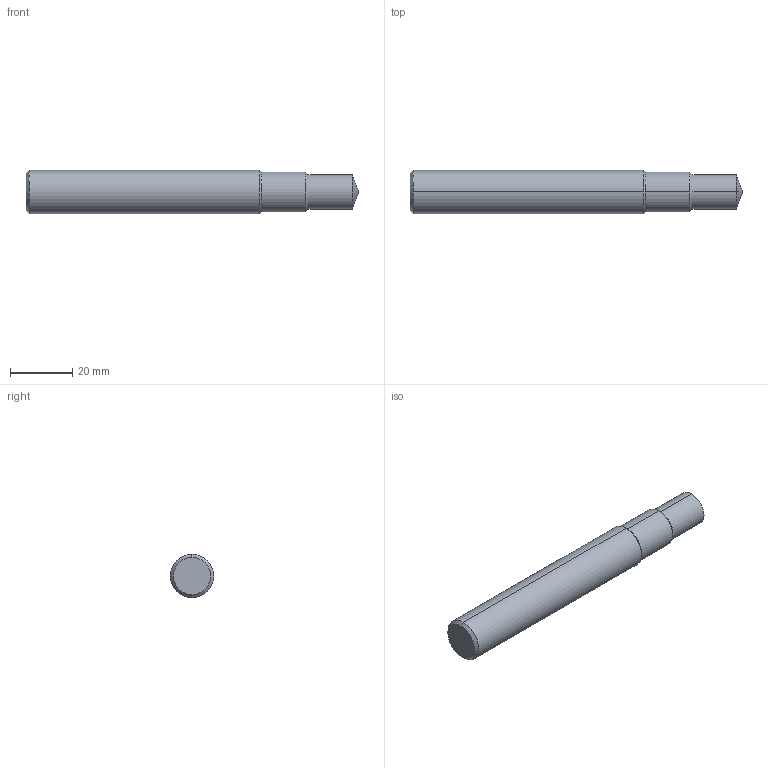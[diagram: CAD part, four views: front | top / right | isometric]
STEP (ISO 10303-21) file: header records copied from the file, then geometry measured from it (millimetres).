
FILE_DESCRIPTION (( 'STEP AP203' ), '1' );
FILE_NAME ('407042-RD-AS5202-05A.STEP', '2024-10-02T15:08:23', ( '' ), ( '' ), 'SwSTEP 2.0', 'SolidWorks 2024', '' );
FILE_SCHEMA (( 'CONFIG_CONTROL_DESIGN' ));
Length unit declared in the file: inch
Products named in the file (1): 407042-RD-AS5202-05A
Bounding box: 107 x 14 x 14 mm (x, y, z)
Volume: 15018.6 mm3; surface area: 4689.3 mm2
Topology: 1 solids, 1 shells, 16 faces, 30 edges, 16 vertices
Faces by surface type: cone 8, cylinder 6, plane 2
Entity records: 473 total; most frequent: DIRECTION 80, CARTESIAN_POINT 63, ORIENTED_EDGE 60, AXIS2_PLACEMENT_3D 33, EDGE_CURVE 30, FACE_OUTER_BOUND 16, EDGE_LOOP 16, ADVANCED_FACE 16
